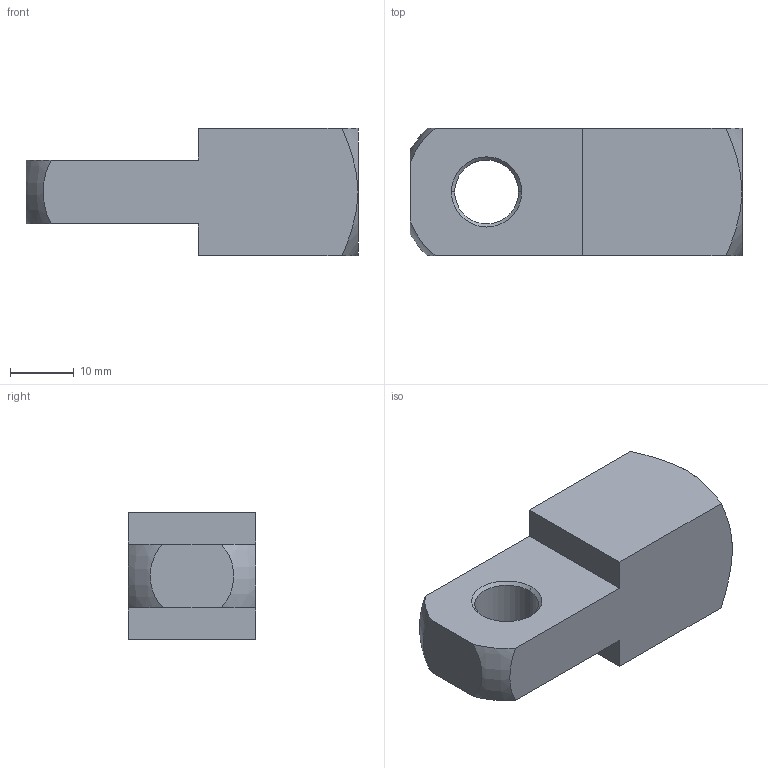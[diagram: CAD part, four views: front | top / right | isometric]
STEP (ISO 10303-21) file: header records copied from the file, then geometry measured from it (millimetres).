
FILE_DESCRIPTION (( 'STEP AP203' ), '1' );
FILE_NAME ('65653.W1010.step', '2014-01-22T12:16:53', ( 'User' ), ( '' ), 'SwSTEP 2.0', 'SolidWorks 2009', '' );
FILE_SCHEMA (( 'CONFIG_CONTROL_DESIGN' ));
Length unit declared in the file: millimetre
Products named in the file (1): 65653.W1010
Bounding box: 52 x 20 x 20 mm (x, y, z)
Volume: 12665.6 mm3; surface area: 5119.4 mm2
Topology: 1 solids, 1 shells, 31 faces, 74 edges, 45 vertices
Faces by surface type: cone 12, plane 11, cylinder 6, torus 2
Entity records: 1087 total; most frequent: CARTESIAN_POINT 297, DIRECTION 152, ORIENTED_EDGE 144, EDGE_CURVE 72, AXIS2_PLACEMENT_3D 60, VERTEX_POINT 45, EDGE_LOOP 35, VECTOR 32
